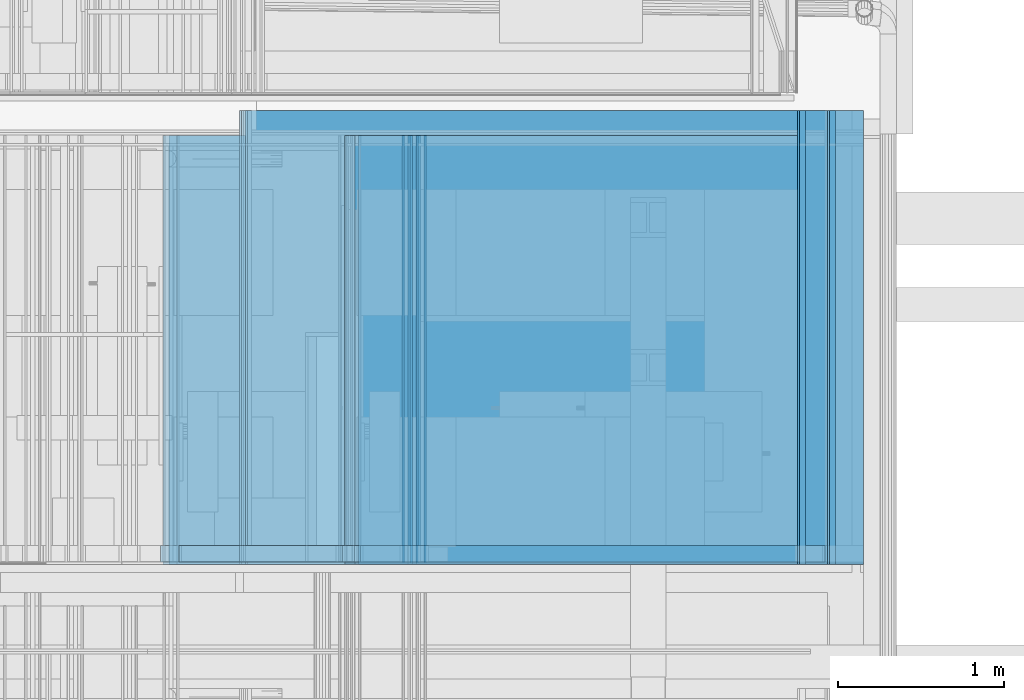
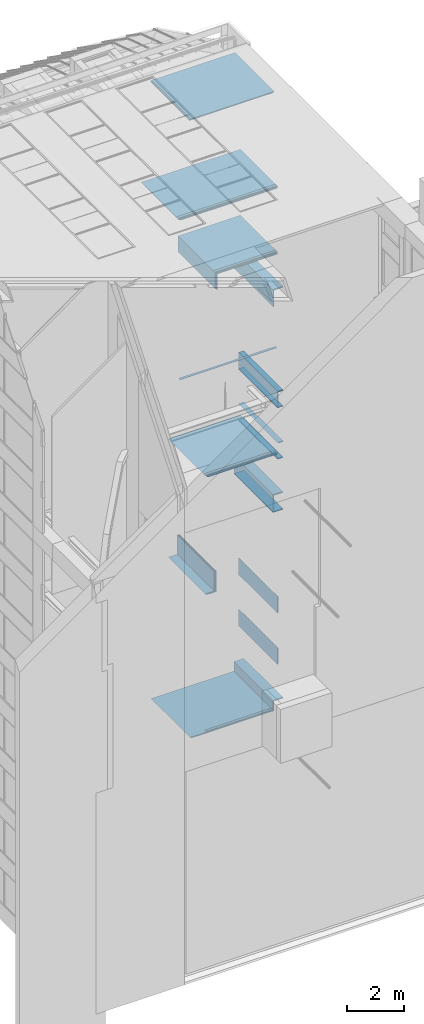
# One storey, part 126 of 583: 57 building element parts, 23 elements without a shape of their own.
"""IFC2X3 building model written with IfcOpenShell, lengths in metres."""

import ifcopenshell
import ifcopenshell.guid

model = None  # the IFC model being written
_history = None  # IfcOwnerHistory: only IFC2X3 demands one
_inside = {}  # id of a spatial element -> (the spatial element, [elements in it])
_under = {}  # id of a project, library or spatial element -> (it, [spatial elements below it])
_declared = {}  # id of a project -> (the project, [libraries it declares])
_typed = {}  # id of a type object -> (the type object, [elements of that type])
_made_of = {}  # id of a material, layer set ... -> (it, [elements and type objects made of it])


def new_model(schema):
    """Start an empty IFC model of exactly this schema.

    Asked for "IFC4X3", IfcOpenShell would pick the latest addendum, in which some entities
    have other attributes; the version numbers below select the first issue.
    IFC2X3 requires an IfcOwnerHistory on every rooted entity: one is made here for all.
    """
    global model, _history
    if schema == "IFC4X3":
        model = ifcopenshell.file(schema_version=(4, 3, 0, 0))
    else:
        model = ifcopenshell.file(schema=schema)
    _inside.clear()
    _under.clear()
    _declared.clear()
    _typed.clear()
    _made_of.clear()
    _history = None
    if model.schema == "IFC2X3":
        org = make("IfcOrganization", Name="unknown")
        user = make(
            "IfcPersonAndOrganization",
            ThePerson=make("IfcPerson", FamilyName="unknown"),
            TheOrganization=org,
        )
        app = make(
            "IfcApplication",
            ApplicationDeveloper=org,
            Version="unknown",
            ApplicationFullName="unknown",
            ApplicationIdentifier="unknown",
        )
        _history = make(
            "IfcOwnerHistory",
            OwningUser=user,
            OwningApplication=app,
            ChangeAction="ADDED",
            CreationDate=0,
        )
    return model


def make(cls, **values):
    """One entity of the class cls with the attributes given. An attribute that is None is left unset."""
    return model.create_entity(
        cls, **{name: value for name, value in values.items() if value is not None}
    )


def entity(cls, *values):
    """Any entity or typed value of the class cls, its attributes in the order of the schema. None: left unset."""
    e = model.create_entity(cls)
    for i, value in enumerate(values):
        if value is not None:
            e[i] = value
    return e


def rooted(cls, **values):
    """An entity with a GlobalId (a new one), such as an element, a storey or a relation."""
    return make(cls, GlobalId=ifcopenshell.guid.new(), OwnerHistory=_history, **values)


def si_unit(unit_type, name, prefix=None):
    """IfcSIUnit, for example si_unit("LENGTHUNIT", "METRE", prefix="MILLI")."""
    return make("IfcSIUnit", UnitType=unit_type, Prefix=prefix, Name=name)


def converted_unit(unit_type, name, factor, base, dimensions=None, offset=None):
    """IfcConversionBasedUnit, such as the inch: factor (a typed value) times the base unit."""
    return make(
        "IfcConversionBasedUnit"
        if offset is None
        else "IfcConversionBasedUnitWithOffset",
        ConversionOffset=offset,
        Dimensions=None
        if dimensions is None
        else entity("IfcDimensionalExponents", *dimensions),
        UnitType=unit_type,
        Name=name,
        ConversionFactor=make(
            "IfcMeasureWithUnit", ValueComponent=factor, UnitComponent=base
        ),
    )


def derived_unit(unit_type, elements):
    """IfcDerivedUnit: a product of units, each with its exponent."""
    return make(
        "IfcDerivedUnit",
        Elements=[
            make("IfcDerivedUnitElement", Unit=unit, Exponent=power)
            for unit, power in elements
        ],
        UnitType=unit_type,
    )


def money_unit(currency):
    """IfcMonetaryUnit."""
    return make("IfcMonetaryUnit", Currency=currency)


def assignment(units):
    """IfcUnitAssignment: the units of a project."""
    return None if units is None else make("IfcUnitAssignment", Units=units)


def point(xyz):
    """IfcCartesianPoint."""
    return None if xyz is None else make("IfcCartesianPoint", Coordinates=xyz)


def direction(xyz):
    """IfcDirection."""
    return None if xyz is None else make("IfcDirection", DirectionRatios=xyz)


def frame(location, z_axis=None, x_axis=None):
    """IfcAxis2Placement3D, a coordinate frame: its origin and axes. An axis left out is left unset."""
    return make(
        "IfcAxis2Placement3D",
        Location=point(location),
        Axis=direction(z_axis),
        RefDirection=direction(x_axis),
    )


def frame_2d(location, x_axis=None):
    """IfcAxis2Placement2D, a coordinate frame in the plane: its origin and x axis."""
    return make(
        "IfcAxis2Placement2D", Location=point(location), RefDirection=direction(x_axis)
    )


def origin_with_axes():
    """The frame at (0, 0, 0) with the z axis (0, 0, 1) and the x axis (1, 0, 0) written out."""
    return frame((0.0, 0.0, 0.0), z_axis=(0.0, 0.0, 1.0), x_axis=(1.0, 0.0, 0.0))


def place(relative_to, where):
    """IfcLocalPlacement: puts the frame where relative to a parent placement (None: the world)."""
    return make(
        "IfcLocalPlacement", PlacementRelTo=relative_to, RelativePlacement=where
    )


def context(
    kind, dimensions, precision=None, world=None, true_north=None, identifier=None
):
    """IfcGeometricRepresentationContext, for example the 3D "Model" context."""
    return make(
        "IfcGeometricRepresentationContext",
        ContextIdentifier=identifier,
        ContextType=kind,
        CoordinateSpaceDimension=dimensions,
        Precision=precision,
        WorldCoordinateSystem=world,
        TrueNorth=true_north,
    )


def subcontext(parent, identifier, kind, view, scale=None):
    """IfcGeometricRepresentationSubContext, for example "Body" below "Model"."""
    return make(
        "IfcGeometricRepresentationSubContext",
        ContextIdentifier=identifier,
        ContextType=kind,
        ParentContext=parent,
        TargetScale=scale,
        TargetView=view,
    )


def project(units=None, contexts=None):
    """IfcProject with its units and contexts."""
    return rooted(
        "IfcProject",
        Name="project",
        RepresentationContexts=contexts,
        UnitsInContext=assignment(units),
    )


def spatial(cls, under=None, at=None, **own):
    """A site, building, storey or space (cls), placed at a placement, below another one or the project."""
    s = rooted(cls, ObjectPlacement=at, **own)
    if under is not None:
        _under.setdefault(under.id(), (under, []))[1].append(s)
    return s


def polyline(points):
    """IfcPolyline through the points."""
    return make("IfcPolyline", Points=[point(p) for p in points])


def profile(cls, at=None, kind="AREA", **sizes):
    """A parametric profile (cls). Its sizes go by their IFC names, for example OverallWidth=200.0."""
    return make(cls, ProfileType=kind, Position=at, **sizes)


def rectangle(**sizes):
    """IfcRectangleProfileDef."""
    return profile("IfcRectangleProfileDef", **sizes)


def outline(outer, holes=None, kind="AREA"):
    """IfcArbitraryClosedProfileDef: a profile drawn as a closed curve; with holes, ...WithVoids."""
    if holes is None:
        return make("IfcArbitraryClosedProfileDef", ProfileType=kind, OuterCurve=outer)
    return make(
        "IfcArbitraryProfileDefWithVoids",
        ProfileType=kind,
        OuterCurve=outer,
        InnerCurves=holes,
    )


def extrude(swept, where, along, depth):
    """IfcExtrudedAreaSolid: the profile swept, set in the frame where, extruded along a direction by depth."""
    return make(
        "IfcExtrudedAreaSolid",
        SweptArea=swept,
        Position=where,
        ExtrudedDirection=direction(along),
        Depth=depth,
    )


def shape(context_of_items, identifier, shape_type, items):
    """IfcShapeRepresentation: the items that make up one representation, for example the "Body"."""
    return make(
        "IfcShapeRepresentation",
        ContextOfItems=context_of_items,
        RepresentationIdentifier=identifier,
        RepresentationType=shape_type,
        Items=items,
    )


def material(Name=None, Category=None):
    """IfcMaterial."""
    return make("IfcMaterial", Name=Name, Category=Category)


def made_of(thing, what):
    """Note that an element or type object is made of a material, layer set ...; save() writes the relation."""
    if what is not None:
        _made_of.setdefault(what.id(), (what, []))[1].append(thing)
    return thing


def type_object(cls, material=None, **own):
    """A type object (cls), such as IfcWallType, which elements share."""
    return made_of(rooted(cls, **own), material)


def element(
    cls,
    number,
    at=None,
    inside=None,
    cuts=None,
    type_object=None,
    material=None,
    context=None,
    identifier="Body",
    shape_type=None,
    held_by="IfcProductDefinitionShape",
    body=None,
    shapes=None,
    **own,
):
    """One element of the class cls, such as IfcWall. Its Tag is "e" and its number.

    at: its placement. inside: the storey or other place that contains it. cuts: it is an
    opening in that element (IfcRelVoidsElement). A single representation is given by context,
    identifier, shape_type and body (its items); several are given by shapes. held_by: the class
    of the entity that holds the representations. save() writes the other relations.
    """
    e = rooted(cls, Tag="e%d" % number, ObjectPlacement=at, **own)
    if body is not None:
        shapes = [shape(context, identifier, shape_type, body)]
    if shapes is not None:
        e.Representation = make(held_by, Representations=shapes)
    if inside is not None:
        _inside.setdefault(inside.id(), (inside, []))[1].append(e)
    if cuts is not None:
        rooted(
            "IfcRelVoidsElement", RelatingBuildingElement=cuts, RelatedOpeningElement=e
        )
    if type_object is not None:
        _typed.setdefault(type_object.id(), (type_object, []))[1].append(e)
    return made_of(e, material)


def aggregate(whole, parts):
    """IfcRelAggregates: a whole, such as a stair, and the parts it consists of."""
    return rooted("IfcRelAggregates", RelatingObject=whole, RelatedObjects=parts)


def save(model, path):
    """Write the relations noted so far, then the file.

    IfcRelAggregates (storeys below a building ...), IfcRelContainedInSpatialStructure (elements
    in a storey), IfcRelDefinesByType, IfcRelAssociatesMaterial and IfcRelDeclares: one each for
    every whole, place, type object, material and project.
    """
    for whole, parts in _under.values():
        aggregate(whole, parts)
    for where, things in _inside.values():
        rooted(
            "IfcRelContainedInSpatialStructure",
            RelatedElements=things,
            RelatingStructure=where,
        )
    for kind, things in _typed.values():
        rooted("IfcRelDefinesByType", RelatedObjects=things, RelatingType=kind)
    for what, things in _made_of.values():
        rooted("IfcRelAssociatesMaterial", RelatedObjects=things, RelatingMaterial=what)
    for by, libraries in _declared.values():
        rooted("IfcRelDeclares", RelatingContext=by, RelatedDefinitions=libraries)
    model.write(path)


model = new_model("IFC2X3")

# Units and contexts
model_context = context("Model", 3, precision=1e-05, world=origin_with_axes(), true_north=direction((0.0, 1.0)))
body_context = subcontext(model_context, "Body", "Model", "MODEL_VIEW", scale=1.0)
ifc_project = project(units=[si_unit("LENGTHUNIT", "METRE"), si_unit("AREAUNIT", "SQUARE_METRE"), si_unit("VOLUMEUNIT", "CUBIC_METRE"), si_unit("ABSORBEDDOSEUNIT", "GRAY"), si_unit("AMOUNTOFSUBSTANCEUNIT", "MOLE"), si_unit("DOSEEQUIVALENTUNIT", "SIEVERT"), si_unit("ELECTRICCAPACITANCEUNIT", "FARAD"), si_unit("ELECTRICCHARGEUNIT", "COULOMB"), si_unit("ELECTRICCONDUCTANCEUNIT", "SIEMENS"), si_unit("ELECTRICCURRENTUNIT", "AMPERE"), si_unit("ELECTRICRESISTANCEUNIT", "OHM"), si_unit("ELECTRICVOLTAGEUNIT", "VOLT"), si_unit("ENERGYUNIT", "JOULE"), si_unit("FORCEUNIT", "NEWTON"), si_unit("FREQUENCYUNIT", "HERTZ"), si_unit("ILLUMINANCEUNIT", "LUX"), si_unit("INDUCTANCEUNIT", "HENRY"), si_unit("LUMINOUSFLUXUNIT", "LUMEN"), si_unit("LUMINOUSINTENSITYUNIT", "CANDELA"), si_unit("MAGNETICFLUXDENSITYUNIT", "TESLA"), si_unit("MAGNETICFLUXUNIT", "WEBER"), si_unit("MASSUNIT", "GRAM"), converted_unit("PLANEANGLEUNIT", "degree", entity("IfcReal", 0.0174532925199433), si_unit("PLANEANGLEUNIT", "RADIAN"), dimensions=[0, 0, 0, 0, 0, 0, 0]), si_unit("POWERUNIT", "WATT"), si_unit("PRESSUREUNIT", "PASCAL"), si_unit("RADIOACTIVITYUNIT", "BECQUEREL"), si_unit("SOLIDANGLEUNIT", "STERADIAN"), si_unit("THERMODYNAMICTEMPERATUREUNIT", "KELVIN"), si_unit("TIMEUNIT", "SECOND"), derived_unit("ACCELERATIONUNIT", [(si_unit("LENGTHUNIT", "METRE"), 1), (si_unit("TIMEUNIT", "SECOND"), -2)]), derived_unit("ANGULARVELOCITYUNIT", [(converted_unit("PLANEANGLEUNIT", "degree", entity("IfcReal", 0.0174532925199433), si_unit("PLANEANGLEUNIT", "RADIAN"), dimensions=[0, 0, 0, 0, 0, 0, 0]), 1), (si_unit("TIMEUNIT", "SECOND"), -1)]), derived_unit("CURVATUREUNIT", [(converted_unit("PLANEANGLEUNIT", "degree", entity("IfcReal", 0.0174532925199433), si_unit("PLANEANGLEUNIT", "RADIAN"), dimensions=[0, 0, 0, 0, 0, 0, 0]), 1), (si_unit("LENGTHUNIT", "METRE"), -1)]), derived_unit("DYNAMICVISCOSITYUNIT", [(si_unit("PRESSUREUNIT", "PASCAL"), 1), (si_unit("TIMEUNIT", "SECOND"), 1)]), derived_unit("HEATFLUXDENSITYUNIT", [(si_unit("POWERUNIT", "WATT"), 1), (si_unit("LENGTHUNIT", "METRE"), -2)]), derived_unit("HEATINGVALUEUNIT", [(si_unit("ENERGYUNIT", "JOULE"), 1), (si_unit("MASSUNIT", "GRAM"), -1)]), derived_unit("INTEGERCOUNTRATEUNIT", [(si_unit("TIMEUNIT", "SECOND"), -1)]), derived_unit("IONCONCENTRATIONUNIT", [(si_unit("MASSUNIT", "GRAM"), 1), (si_unit("VOLUMEUNIT", "CUBIC_METRE"), -1)]), derived_unit("ISOTHERMALMOISTURECAPACITYUNIT", [(si_unit("VOLUMEUNIT", "CUBIC_METRE"), 1), (si_unit("MASSUNIT", "GRAM"), -1)]), derived_unit("KINEMATICVISCOSITYUNIT", [(si_unit("AREAUNIT", "SQUARE_METRE"), 1), (si_unit("TIMEUNIT", "SECOND"), -1)]), derived_unit("LINEARFORCEUNIT", [(si_unit("FORCEUNIT", "NEWTON"), 1), (si_unit("LENGTHUNIT", "METRE"), -1)]), derived_unit("LINEARMOMENTUNIT", [(si_unit("FORCEUNIT", "NEWTON"), 1), (si_unit("LENGTHUNIT", "METRE"), -1)]), derived_unit("LINEARSTIFFNESSUNIT", [(si_unit("FORCEUNIT", "NEWTON"), 1), (si_unit("LENGTHUNIT", "METRE"), -1)]), derived_unit("LINEARVELOCITYUNIT", [(si_unit("LENGTHUNIT", "METRE"), 1), (si_unit("TIMEUNIT", "SECOND"), -1)]), derived_unit("LUMINOUSINTENSITYDISTRIBUTIONUNIT", [(si_unit("LUMINOUSINTENSITYUNIT", "CANDELA"), 1), (si_unit("LUMINOUSFLUXUNIT", "LUMEN"), -1)]), derived_unit("MASSDENSITYUNIT", [(si_unit("MASSUNIT", "GRAM"), 1), (si_unit("VOLUMEUNIT", "CUBIC_METRE"), -1)]), derived_unit("MASSFLOWRATEUNIT", [(si_unit("MASSUNIT", "GRAM"), 1), (si_unit("TIMEUNIT", "SECOND"), -1)]), derived_unit("MASSPERLENGTHUNIT", [(si_unit("MASSUNIT", "GRAM"), 1), (si_unit("LENGTHUNIT", "METRE"), -1)]), derived_unit("MODULUSOFELASTICITYUNIT", [(si_unit("FORCEUNIT", "NEWTON"), 1), (si_unit("AREAUNIT", "SQUARE_METRE"), -1)]), derived_unit("MODULUSOFLINEARSUBGRADEREACTIONUNIT", [(si_unit("FORCEUNIT", "NEWTON"), 1), (si_unit("LENGTHUNIT", "METRE"), -2)]), derived_unit("MODULUSOFROTATIONALSUBGRADEREACTIONUNIT", [(si_unit("FORCEUNIT", "NEWTON"), 1), (si_unit("LENGTHUNIT", "METRE"), 1)]), derived_unit("MODULUSOFSUBGRADEREACTIONUNIT", [(si_unit("FORCEUNIT", "NEWTON"), 1), (si_unit("VOLUMEUNIT", "CUBIC_METRE"), -1)]), derived_unit("MOISTUREDIFFUSIVITYUNIT", [(si_unit("VOLUMEUNIT", "CUBIC_METRE"), 1), (si_unit("TIMEUNIT", "SECOND"), -1)]), derived_unit("MOLECULARWEIGHTUNIT", [(si_unit("MASSUNIT", "GRAM"), 1), (si_unit("AMOUNTOFSUBSTANCEUNIT", "MOLE"), -1)]), derived_unit("PLANARFORCEUNIT", [(si_unit("FORCEUNIT", "NEWTON"), 1), (si_unit("LENGTHUNIT", "METRE"), -2)]), derived_unit("ROTATIONALFREQUENCYUNIT", [(si_unit("TIMEUNIT", "SECOND"), -1)]), derived_unit("ROTATIONALMASSUNIT", [(si_unit("MASSUNIT", "GRAM"), 1), (si_unit("LENGTHUNIT", "METRE"), 2)]), derived_unit("ROTATIONALSTIFFNESSUNIT", [(si_unit("FORCEUNIT", "NEWTON"), 1), (si_unit("LENGTHUNIT", "METRE"), 1), (converted_unit("PLANEANGLEUNIT", "degree", entity("IfcReal", 0.0174532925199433), si_unit("PLANEANGLEUNIT", "RADIAN"), dimensions=[0, 0, 0, 0, 0, 0, 0]), -1)]), derived_unit("SECTIONAREAINTEGRALUNIT", [(si_unit("LENGTHUNIT", "METRE"), 5)]), derived_unit("SECTIONMODULUSUNIT", [(si_unit("LENGTHUNIT", "METRE"), 3)]), derived_unit("SHEARMODULUSUNIT", [(si_unit("FORCEUNIT", "NEWTON"), 1), (si_unit("AREAUNIT", "SQUARE_METRE"), -1)]), derived_unit("SOUNDPOWERUNIT", [(si_unit("ENERGYUNIT", "JOULE"), 1), (si_unit("TIMEUNIT", "SECOND"), -1)]), derived_unit("SPECIFICHEATCAPACITYUNIT", [(si_unit("FORCEUNIT", "NEWTON"), 1), (si_unit("MASSUNIT", "GRAM"), -1), (si_unit("THERMODYNAMICTEMPERATUREUNIT", "KELVIN"), -1)]), derived_unit("TEMPERATUREGRADIENTUNIT", [(si_unit("THERMODYNAMICTEMPERATUREUNIT", "KELVIN"), 1), (si_unit("LENGTHUNIT", "METRE"), -1)]), derived_unit("THERMALADMITTANCEUNIT", [(si_unit("POWERUNIT", "WATT"), 1), (si_unit("AREAUNIT", "SQUARE_METRE"), -1), (si_unit("THERMODYNAMICTEMPERATUREUNIT", "KELVIN"), -1)]), derived_unit("THERMALCONDUCTANCEUNIT", [(si_unit("POWERUNIT", "WATT"), 1), (si_unit("LENGTHUNIT", "METRE"), -1), (si_unit("THERMODYNAMICTEMPERATUREUNIT", "KELVIN"), -1)]), derived_unit("THERMALEXPANSIONCOEFFICIENTUNIT", [(si_unit("THERMODYNAMICTEMPERATUREUNIT", "KELVIN"), -1)]), derived_unit("THERMALRESISTANCEUNIT", [(si_unit("AREAUNIT", "SQUARE_METRE"), 1), (si_unit("POWERUNIT", "WATT"), -1)]), derived_unit("THERMALTRANSMITTANCEUNIT", [(si_unit("POWERUNIT", "WATT"), 1), (si_unit("AREAUNIT", "SQUARE_METRE"), -1), (si_unit("THERMODYNAMICTEMPERATUREUNIT", "KELVIN"), -1)]), derived_unit("TORQUEUNIT", [(si_unit("FORCEUNIT", "NEWTON"), 1), (si_unit("LENGTHUNIT", "METRE"), 1)]), derived_unit("VAPORPERMEABILITYUNIT", [(si_unit("MASSUNIT", "GRAM"), 1), (si_unit("TIMEUNIT", "SECOND"), -1)]), derived_unit("VOLUMETRICFLOWRATEUNIT", [(si_unit("VOLUMEUNIT", "CUBIC_METRE"), 1), (si_unit("TIMEUNIT", "SECOND"), -1)]), derived_unit("WARPINGCONSTANTUNIT", [(si_unit("LENGTHUNIT", "METRE"), 6)]), derived_unit("WARPINGMOMENTUNIT", [(si_unit("FORCEUNIT", "NEWTON"), 1), (si_unit("LENGTHUNIT", "METRE"), 2)]), money_unit("GBP")], contexts=[model_context])

# Site, building, storey
site_placement = place(None, origin_with_axes())
site = spatial("IfcSite", under=ifc_project, at=site_placement, Name="Site", CompositionType="ELEMENT")
building_placement = place(site_placement, origin_with_axes())
building = spatial("IfcBuilding", under=site, at=building_placement, Name="Building01", CompositionType="ELEMENT")
storey_placement = place(building_placement, frame((0.0, 0.0, 20.78), z_axis=(0.0, 0.0, 1.0), x_axis=(1.0, 0.0, 0.0)))
storey = spatial("IfcBuildingStorey", under=building, at=storey_placement, Name="RL", CompositionType="ELEMENT", Elevation=20.78)

# Wall, building element parts
wall_type_1 = type_object("IfcWallType", Name="SHE_A-Walls_Type06d_ExternalWallInsulation_48mm", PredefinedType="NOTDEFINED")
wall_1_placement = place(storey_placement, frame((14.8, 12.13, -20.103), z_axis=(0.0, 1.0, 0.0), x_axis=(-1.0, 0.0, 0.0)))
wall_1 = element("IfcWall", 1, at=wall_1_placement, inside=storey, type_object=wall_type_1, Name="6D", ObjectType="SHE_A-Walls_Type06d_ExternalWallInsulation_48mm")
ifc_material_1 = material(Name="A_BSUK_Insulation")
placement_1 = place(wall_1_placement, origin_with_axes())
building_element_part_1 = element("IfcBuildingElementPart", 2, at=placement_1, material=ifc_material_1, Name="1", context=body_context, shape_type="SweptSolid", body=[
    extrude(outline(polyline([(0.386, 0.036), (0.0, 0.036), (0.0, 0.0), (0.35, 0.0), (0.386, 0.036)])), origin_with_axes(), (0.0, 0.0, 1.0), 2.74),
])
ifc_material_2 = material(Name="A_BSUK_WallInternal_Finishes_Plasterboard")
building_element_part_2 = element("IfcBuildingElementPart", 3, at=placement_1, material=ifc_material_2, Name="3", context=body_context, shape_type="SweptSolid", body=[
    extrude(outline(polyline([(0.398, 0.048), (0.0, 0.048), (0.0, 0.035), (0.385, 0.035), (0.398, 0.048)])), origin_with_axes(), (0.0, 0.0, 1.0), 2.74),
])
aggregate(wall_1, [building_element_part_1, building_element_part_2])

wall_2_placement = place(storey_placement, frame((14.45, 12.13, -20.103), z_axis=(0.0, 1.0, 0.0), x_axis=(0.0, 0.0, -1.0)))
wall_2 = element("IfcWall", 4, at=wall_2_placement, inside=storey, type_object=wall_type_1, Name="6D", ObjectType="SHE_A-Walls_Type06d_ExternalWallInsulation_48mm")
placement_2 = place(wall_2_placement, origin_with_axes())
building_element_part_3 = element("IfcBuildingElementPart", 5, at=placement_2, material=ifc_material_1, Name="1", context=body_context, shape_type="SweptSolid", body=[
    extrude(outline(polyline([(0.371, 0.036), (-0.036, 0.036), (0.0, 0.0), (0.407, 0.0), (0.371, 0.036)])), origin_with_axes(), (0.0, 0.0, 1.0), 2.74),
])
building_element_part_4 = element("IfcBuildingElementPart", 6, at=placement_2, material=ifc_material_2, Name="3", context=body_context, shape_type="SweptSolid", body=[
    extrude(outline(polyline([(0.359, 0.048), (-0.048, 0.048), (-0.035, 0.035), (0.372, 0.035), (0.359, 0.048)])), origin_with_axes(), (0.0, 0.0, 1.0), 2.74),
])
aggregate(wall_2, [building_element_part_3, building_element_part_4])

wall_3_placement = place(storey_placement, frame((14.63, 12.13, -17.913), z_axis=(0.0, 1.0, 0.0), x_axis=(0.0, 0.0, -1.0)))
wall_3 = element("IfcWall", 7, at=wall_3_placement, inside=storey, type_object=wall_type_1, Name="6D", ObjectType="SHE_A-Walls_Type06d_ExternalWallInsulation_48mm")
placement_3 = place(wall_3_placement, origin_with_axes())
building_element_part_5 = element("IfcBuildingElementPart", 8, at=placement_3, material=ifc_material_1, Name="1", context=body_context, shape_type="SweptSolid", body=[
    extrude(outline(polyline([(0.66, 0.036), (-0.036, 0.036), (0.0, 0.0), (0.624, 0.0), (0.66, 0.036)])), origin_with_axes(), (0.0, 0.0, 1.0), 2.74),
])
building_element_part_6 = element("IfcBuildingElementPart", 9, at=placement_3, material=ifc_material_2, Name="3", context=body_context, shape_type="SweptSolid", body=[
    extrude(outline(polyline([(0.672, 0.048), (-0.048, 0.048), (-0.035, 0.035), (0.659, 0.035), (0.672, 0.048)])), origin_with_axes(), (0.0, 0.0, 1.0), 2.74),
])
aggregate(wall_3, [building_element_part_5, building_element_part_6])

wall_4_placement = place(storey_placement, frame((14.63, 12.13, -15.723), z_axis=(0.0, 1.0, 0.0), x_axis=(0.0, 0.0, -1.0)))
wall_4 = element("IfcWall", 10, at=wall_4_placement, inside=storey, type_object=wall_type_1, Name="6D", ObjectType="SHE_A-Walls_Type06d_ExternalWallInsulation_48mm")
placement_4 = place(wall_4_placement, origin_with_axes())
building_element_part_7 = element("IfcBuildingElementPart", 11, at=placement_4, material=ifc_material_1, Name="1", context=body_context, shape_type="SweptSolid", body=[
    extrude(outline(polyline([(0.66, 0.036), (-0.036, 0.036), (0.0, 0.0), (0.624, 0.0), (0.66, 0.036)])), origin_with_axes(), (0.0, 0.0, 1.0), 2.74),
])
building_element_part_8 = element("IfcBuildingElementPart", 12, at=placement_4, material=ifc_material_2, Name="3", context=body_context, shape_type="SweptSolid", body=[
    extrude(outline(polyline([(0.672, 0.048), (-0.048, 0.048), (-0.035, 0.035), (0.659, 0.035), (0.672, 0.048)])), origin_with_axes(), (0.0, 0.0, 1.0), 2.74),
])
aggregate(wall_4, [building_element_part_7, building_element_part_8])

wall_5_placement = place(storey_placement, frame((14.8, 12.13, -11.32), z_axis=(0.0, 1.0, 0.0), x_axis=(-1.0, 0.0, 0.0)))
wall_5 = element("IfcWall", 13, at=wall_5_placement, inside=storey, type_object=wall_type_1, Name="6D", ObjectType="SHE_A-Walls_Type06d_ExternalWallInsulation_48mm")
placement_5 = place(wall_5_placement, origin_with_axes())
building_element_part_9 = element("IfcBuildingElementPart", 14, at=placement_5, material=ifc_material_1, Name="1", context=body_context, shape_type="SweptSolid", body=[
    extrude(outline(polyline([(0.386, 0.036), (0.0, 0.036), (0.0, 0.0), (0.35, 0.0), (0.386, 0.036)])), origin_with_axes(), (0.0, 0.0, 1.0), 2.74),
])
building_element_part_10 = element("IfcBuildingElementPart", 15, at=placement_5, material=ifc_material_2, Name="3", context=body_context, shape_type="SweptSolid", body=[
    extrude(outline(polyline([(0.398, 0.048), (0.0, 0.048), (0.0, 0.035), (0.385, 0.035), (0.398, 0.048)])), origin_with_axes(), (0.0, 0.0, 1.0), 2.74),
])
aggregate(wall_5, [building_element_part_9, building_element_part_10])

wall_6_placement = place(storey_placement, frame((14.45, 12.13, -11.32), z_axis=(0.0, 1.0, 0.0), x_axis=(0.0, 0.0, -1.0)))
wall_6 = element("IfcWall", 16, at=wall_6_placement, inside=storey, type_object=wall_type_1, Name="6D", ObjectType="SHE_A-Walls_Type06d_ExternalWallInsulation_48mm")
placement_6 = place(wall_6_placement, origin_with_axes())
building_element_part_11 = element("IfcBuildingElementPart", 17, at=placement_6, material=ifc_material_1, Name="1", context=body_context, shape_type="SweptSolid", body=[
    extrude(outline(polyline([(0.706, 0.036), (-0.036, 0.036), (0.0, 0.0), (0.67, 0.0), (0.706, 0.036)])), origin_with_axes(), (0.0, 0.0, 1.0), 2.74),
])
building_element_part_12 = element("IfcBuildingElementPart", 18, at=placement_6, material=ifc_material_2, Name="3", context=body_context, shape_type="SweptSolid", body=[
    extrude(outline(polyline([(0.718, 0.048), (-0.048, 0.048), (-0.035, 0.035), (0.705, 0.035), (0.718, 0.048)])), origin_with_axes(), (0.0, 0.0, 1.0), 2.74),
])
aggregate(wall_6, [building_element_part_11, building_element_part_12])

wall_7_placement = place(storey_placement, frame((14.45, 12.13, -11.99), z_axis=(0.0, 1.0, 0.0), x_axis=(1.0, 0.0, 0.0)))
wall_7 = element("IfcWall", 19, at=wall_7_placement, inside=storey, type_object=wall_type_1, Name="6D", ObjectType="SHE_A-Walls_Type06d_ExternalWallInsulation_48mm")
placement_7 = place(wall_7_placement, origin_with_axes())
building_element_part_13 = element("IfcBuildingElementPart", 20, at=placement_7, material=ifc_material_1, Name="1", context=body_context, shape_type="SweptSolid", body=[
    extrude(outline(polyline([(-0.036, 0.036), (0.0, 0.0), (0.35, 0.0), (0.35, 0.036), (-0.036, 0.036)])), origin_with_axes(), (0.0, 0.0, 1.0), 2.74),
])
building_element_part_14 = element("IfcBuildingElementPart", 21, at=placement_7, material=ifc_material_2, Name="3", context=body_context, shape_type="SweptSolid", body=[
    extrude(outline(polyline([(-0.048, 0.048), (-0.035, 0.035), (0.35, 0.035), (0.35, 0.048), (-0.048, 0.048)])), origin_with_axes(), (0.0, 0.0, 1.0), 2.74),
])
aggregate(wall_7, [building_element_part_13, building_element_part_14])

wall_8_placement = place(storey_placement, frame((14.8, 12.13, -9.153), z_axis=(0.0, 1.0, 0.0), x_axis=(-1.0, 0.0, 0.0)))
wall_8 = element("IfcWall", 22, at=wall_8_placement, inside=storey, type_object=wall_type_1, Name="6D", ObjectType="SHE_A-Walls_Type06d_ExternalWallInsulation_48mm")
placement_8 = place(wall_8_placement, origin_with_axes())
building_element_part_15 = element("IfcBuildingElementPart", 23, at=placement_8, material=ifc_material_1, Name="1", context=body_context, shape_type="SweptSolid", body=[
    extrude(outline(polyline([(0.206, 0.036), (0.0, 0.036), (0.0, 0.0), (0.17, 0.0), (0.206, 0.036)])), origin_with_axes(), (0.0, 0.0, 1.0), 2.74),
])
building_element_part_16 = element("IfcBuildingElementPart", 24, at=placement_8, material=ifc_material_2, Name="3", context=body_context, shape_type="SweptSolid", body=[
    extrude(outline(polyline([(0.218, 0.048), (0.0, 0.048), (0.0, 0.035), (0.205, 0.035), (0.218, 0.048)])), origin_with_axes(), (0.0, 0.0, 1.0), 2.74),
])
aggregate(wall_8, [building_element_part_15, building_element_part_16])

wall_9_placement = place(storey_placement, frame((14.63, 12.13, -9.777), z_axis=(0.0, 1.0, 0.0), x_axis=(1.0, 0.0, 0.0)))
wall_9 = element("IfcWall", 25, at=wall_9_placement, inside=storey, type_object=wall_type_1, Name="6D", ObjectType="SHE_A-Walls_Type06d_ExternalWallInsulation_48mm")
placement_9 = place(wall_9_placement, origin_with_axes())
building_element_part_17 = element("IfcBuildingElementPart", 26, at=placement_9, material=ifc_material_1, Name="1", context=body_context, shape_type="SweptSolid", body=[
    extrude(outline(polyline([(-0.036, 0.036), (0.0, 0.0), (0.17, 0.0), (0.17, 0.036), (-0.036, 0.036)])), origin_with_axes(), (0.0, 0.0, 1.0), 2.74),
])
building_element_part_18 = element("IfcBuildingElementPart", 27, at=placement_9, material=ifc_material_2, Name="3", context=body_context, shape_type="SweptSolid", body=[
    extrude(outline(polyline([(-0.048, 0.048), (-0.035, 0.035), (0.17, 0.035), (0.17, 0.048), (-0.048, 0.048)])), origin_with_axes(), (0.0, 0.0, 1.0), 2.74),
])
aggregate(wall_9, [building_element_part_17, building_element_part_18])

wall_10_placement = place(storey_placement, frame((14.8, 12.13, -6.963), z_axis=(0.0, 1.0, 0.0), x_axis=(-1.0, 0.0, 0.0)))
wall_10 = element("IfcWall", 28, at=wall_10_placement, inside=storey, type_object=wall_type_1, Name="6D", ObjectType="SHE_A-Walls_Type06d_ExternalWallInsulation_48mm")
placement_10 = place(wall_10_placement, origin_with_axes())
building_element_part_19 = element("IfcBuildingElementPart", 29, at=placement_10, material=ifc_material_1, Name="1", context=body_context, shape_type="SweptSolid", body=[
    extrude(outline(polyline([(0.206, 0.036), (0.0, 0.036), (0.0, 0.0), (0.17, 0.0), (0.206, 0.036)])), origin_with_axes(), (0.0, 0.0, 1.0), 2.74),
])
building_element_part_20 = element("IfcBuildingElementPart", 30, at=placement_10, material=ifc_material_2, Name="3", context=body_context, shape_type="SweptSolid", body=[
    extrude(outline(polyline([(0.218, 0.048), (0.0, 0.048), (0.0, 0.035), (0.205, 0.035), (0.218, 0.048)])), origin_with_axes(), (0.0, 0.0, 1.0), 2.74),
])
aggregate(wall_10, [building_element_part_19, building_element_part_20])

wall_11_placement = place(storey_placement, frame((14.63, 12.13, -6.963), z_axis=(0.0, 1.0, 0.0), x_axis=(0.0, 0.0, -1.0)))
wall_11 = element("IfcWall", 31, at=wall_11_placement, inside=storey, type_object=wall_type_1, Name="6D", ObjectType="SHE_A-Walls_Type06d_ExternalWallInsulation_48mm")
placement_11 = place(wall_11_placement, origin_with_axes())
building_element_part_21 = element("IfcBuildingElementPart", 32, at=placement_11, material=ifc_material_1, Name="1", context=body_context, shape_type="SweptSolid", body=[
    extrude(outline(polyline([(0.66, 0.036), (-0.036, 0.036), (0.0, 0.0), (0.624, 0.0), (0.66, 0.036)])), origin_with_axes(), (0.0, 0.0, 1.0), 2.74),
])
building_element_part_22 = element("IfcBuildingElementPart", 33, at=placement_11, material=ifc_material_2, Name="3", context=body_context, shape_type="SweptSolid", body=[
    extrude(outline(polyline([(0.672, 0.048), (-0.048, 0.048), (-0.035, 0.035), (0.659, 0.035), (0.672, 0.048)])), origin_with_axes(), (0.0, 0.0, 1.0), 2.74),
])
aggregate(wall_11, [building_element_part_21, building_element_part_22])

wall_12_placement = place(storey_placement, frame((14.63, 12.13, -7.587), z_axis=(0.0, 1.0, 0.0), x_axis=(1.0, 0.0, 0.0)))
wall_12 = element("IfcWall", 34, at=wall_12_placement, inside=storey, type_object=wall_type_1, Name="6D", ObjectType="SHE_A-Walls_Type06d_ExternalWallInsulation_48mm")
placement_12 = place(wall_12_placement, origin_with_axes())
building_element_part_23 = element("IfcBuildingElementPart", 35, at=placement_12, material=ifc_material_1, Name="1", context=body_context, shape_type="SweptSolid", body=[
    extrude(outline(polyline([(-0.036, 0.036), (0.0, 0.0), (0.17, 0.0), (0.17, 0.036), (-0.036, 0.036)])), origin_with_axes(), (0.0, 0.0, 1.0), 2.74),
])
building_element_part_24 = element("IfcBuildingElementPart", 36, at=placement_12, material=ifc_material_2, Name="3", context=body_context, shape_type="SweptSolid", body=[
    extrude(outline(polyline([(-0.048, 0.048), (-0.035, 0.035), (0.17, 0.035), (0.17, 0.048), (-0.048, 0.048)])), origin_with_axes(), (0.0, 0.0, 1.0), 2.74),
])
aggregate(wall_12, [building_element_part_23, building_element_part_24])

wall_13_placement = place(storey_placement, frame((14.8, 12.13, -2.56), z_axis=(0.0, 1.0, 0.0), x_axis=(-1.0, 0.0, 0.0)))
wall_13 = element("IfcWall", 37, at=wall_13_placement, inside=storey, type_object=wall_type_1, Name="6D", ObjectType="SHE_A-Walls_Type06d_ExternalWallInsulation_48mm")
placement_13 = place(wall_13_placement, origin_with_axes())
building_element_part_25 = element("IfcBuildingElementPart", 38, at=placement_13, material=ifc_material_1, Name="1", context=body_context, shape_type="SweptSolid", body=[
    extrude(outline(polyline([(0.386, 0.036), (0.0, 0.036), (0.0, 0.0), (0.35, 0.0), (0.386, 0.036)])), origin_with_axes(), (0.0, 0.0, 1.0), 2.74),
])
building_element_part_26 = element("IfcBuildingElementPart", 39, at=placement_13, material=ifc_material_2, Name="3", context=body_context, shape_type="SweptSolid", body=[
    extrude(outline(polyline([(0.398, 0.048), (0.0, 0.048), (0.0, 0.035), (0.385, 0.035), (0.398, 0.048)])), origin_with_axes(), (0.0, 0.0, 1.0), 2.74),
])
aggregate(wall_13, [building_element_part_25, building_element_part_26])

# Wall, building element part
wall_14_placement = place(storey_placement, frame((14.45, 12.13, -2.56), z_axis=(0.0, 1.0, 0.0), x_axis=(0.0, 0.0, -1.0)))
wall_14 = element("IfcWall", 40, at=wall_14_placement, inside=storey, type_object=wall_type_1, Name="6D", ObjectType="SHE_A-Walls_Type06d_ExternalWallInsulation_48mm")
building_element_part_27_placement = place(wall_14_placement, origin_with_axes())
building_element_part_27 = element("IfcBuildingElementPart", 41, at=building_element_part_27_placement, material=ifc_material_1, Name="1", context=body_context, shape_type="SweptSolid", body=[
    extrude(outline(polyline([(0.706, 0.036), (-0.036, 0.036), (0.0, 0.0), (0.67, 0.0), (0.706, 0.036)])), origin_with_axes(), (0.0, 0.0, 1.0), 2.74),
])
aggregate(wall_14, [building_element_part_27])

# Wall, building element parts
wall_15_placement = place(storey_placement, frame((11.08018, 12.13, 5.93), z_axis=(0.0, 1.0, 0.0), x_axis=(1.0, 0.0, 0.0)))
wall_15 = element("IfcWall", 42, at=wall_15_placement, inside=storey, type_object=wall_type_1, Name="6D", ObjectType="SHE_A-Walls_Type06d_ExternalWallInsulation_48mm")
placement_14 = place(wall_15_placement, origin_with_axes())
building_element_part_28 = element("IfcBuildingElementPart", 43, at=placement_14, material=ifc_material_1, Name="1", context=body_context, shape_type="SweptSolid", body=[
    extrude(outline(polyline([(3.33382, 0.036), (-0.036, 0.036), (0.0, 0.0), (3.36982, 0.0), (3.33382, 0.036)])), origin_with_axes(), (0.0, 0.0, 1.0), 2.74),
])
ifc_material_3 = material(Name="A_BSUK_Walls_Timber")
building_element_part_29 = element("IfcBuildingElementPart", 44, at=placement_14, material=ifc_material_3, Name="2", context=body_context, shape_type="SweptSolid", body=[
    extrude(outline(polyline([(3.30682, 0.063), (-0.048, 0.063), (-0.048, 0.048), (3.32182, 0.048), (3.30682, 0.063)])), frame((0.0, 0.0, 0.015), z_axis=(0.0, 0.0, 1.0), x_axis=(1.0, 0.0, 0.0)), (0.0, 0.0, 1.0), 0.1),
])
building_element_part_30 = element("IfcBuildingElementPart", 45, at=placement_14, material=ifc_material_2, Name="3", context=body_context, shape_type="SweptSolid", body=[
    extrude(outline(polyline([(3.32182, 0.048), (-0.048, 0.048), (-0.035, 0.035), (3.33482, 0.035), (3.32182, 0.048)])), origin_with_axes(), (0.0, 0.0, 1.0), 2.74),
])
aggregate(wall_15, [building_element_part_28, building_element_part_29, building_element_part_30])

wall_16_placement = place(storey_placement, frame((14.45, 12.13, -20.51), z_axis=(0.0, 1.0, 0.0), x_axis=(-1.0, 0.0, 0.0)))
wall_16 = element("IfcWall", 46, at=wall_16_placement, inside=storey, type_object=wall_type_1, Name="6D", ObjectType="SHE_A-Walls_Type06d_ExternalWallInsulation_48mm")
placement_15 = place(wall_16_placement, origin_with_axes())
building_element_part_31 = element("IfcBuildingElementPart", 47, at=placement_15, material=ifc_material_1, Name="1", context=body_context, shape_type="SweptSolid", body=[
    extrude(outline(polyline([(3.383, 0.036), (0.036, 0.036), (0.0, 0.0), (3.347, 0.0), (3.383, 0.036)])), origin_with_axes(), (0.0, 0.0, 1.0), 2.74),
])
building_element_part_32 = element("IfcBuildingElementPart", 48, at=placement_15, material=ifc_material_3, Name="2", context=body_context, shape_type="SweptSolid", body=[
    extrude(outline(polyline([(2.72433, 0.063), (0.063, 0.063), (0.048, 0.048), (2.72433, 0.048), (2.72433, 0.063)])), frame((0.0, 0.0, 0.015), z_axis=(0.0, 0.0, 1.0), x_axis=(1.0, 0.0, 0.0)), (0.0, 0.0, 1.0), 0.1),
])
building_element_part_33 = element("IfcBuildingElementPart", 49, at=placement_15, material=ifc_material_2, Name="4", context=body_context, shape_type="SweptSolid", body=[
    extrude(outline(polyline([(3.395, 0.048), (0.048, 0.048), (0.035, 0.035), (3.382, 0.035), (3.395, 0.048)])), origin_with_axes(), (0.0, 0.0, 1.0), 2.74),
])
aggregate(wall_16, [building_element_part_31, building_element_part_32, building_element_part_33])

wall_type_2 = type_object("IfcWallType", Name="SHE_A-Walls_Type05a_Partition_95mm_tall", PredefinedType="NOTDEFINED")
wall_17_placement = place(storey_placement, frame((10.605, 12.13, 1.81), z_axis=(0.0, 1.0, 0.0), x_axis=(1.0, 0.0, 0.0)))
wall_17 = element("IfcWall", 50, at=wall_17_placement, inside=storey, type_object=wall_type_2, Name="5A", ObjectType="SHE_A-Walls_Type05a_Partition_95mm_tall")
placement_16 = place(wall_17_placement, origin_with_axes())
building_element_part_34 = element("IfcBuildingElementPart", 51, at=placement_16, material=ifc_material_1, Name="1", context=body_context, shape_type="SweptSolid", body=[
    extrude(rectangle(XDim=3.977, YDim=0.025, at=frame_2d((1.9885, 0.0125), x_axis=(-1.0, 0.0))), origin_with_axes(), (0.0, 0.0, 1.0), 2.59),
])
building_element_part_35 = element("IfcBuildingElementPart", 52, at=placement_16, material=ifc_material_3, Name="2", context=body_context, shape_type="SweptSolid", body=[
    extrude(outline(polyline([(3.962, 0.075), (0.075, 0.075), (0.06, 0.06), (3.962, 0.06), (3.962, 0.075)])), frame((0.0, 0.0, 0.015), z_axis=(0.0, 0.0, 1.0), x_axis=(1.0, 0.0, 0.0)), (0.0, 0.0, 1.0), 0.1),
])
building_element_part_36 = element("IfcBuildingElementPart", 53, at=placement_16, material=ifc_material_3, Name="3", context=body_context, shape_type="SweptSolid", body=[
    extrude(outline(polyline([(3.977, -0.035), (-0.035, -0.035), (-0.05, -0.05), (3.977, -0.05), (3.977, -0.035)])), frame((0.0, 0.0, 0.015), z_axis=(0.0, 0.0, 1.0), x_axis=(1.0, 0.0, 0.0)), (0.0, 0.0, 1.0), 0.1),
])
building_element_part_37 = element("IfcBuildingElementPart", 54, at=placement_16, material=ifc_material_2, Name="4", context=body_context, shape_type="SweptSolid", body=[
    extrude(outline(polyline([(3.977, 0.06), (0.06, 0.06), (0.048, 0.048), (3.977, 0.048), (3.977, 0.06)])), origin_with_axes(), (0.0, 0.0, 1.0), 2.59),
])
building_element_part_38 = element("IfcBuildingElementPart", 55, at=placement_16, material=ifc_material_2, Name="5", context=body_context, shape_type="SweptSolid", body=[
    extrude(outline(polyline([(3.977, -0.023), (-0.023, -0.023), (-0.035, -0.035), (3.977, -0.035), (3.977, -0.023)])), origin_with_axes(), (0.0, 0.0, 1.0), 2.59),
])
aggregate(wall_17, [building_element_part_34, building_element_part_35, building_element_part_36, building_element_part_37, building_element_part_38])

wall_18_placement = place(storey_placement, frame((12.099378, 12.13, -1.005), z_axis=(0.0, 1.0, 0.0), x_axis=(1.0, 0.0, 0.0)))
wall_18 = element("IfcWall", 56, at=wall_18_placement, inside=storey, type_object=wall_type_2, Name="5A", ObjectType="SHE_A-Walls_Type05a_Partition_95mm_tall")
placement_17 = place(wall_18_placement, origin_with_axes())
building_element_part_39 = element("IfcBuildingElementPart", 57, at=placement_17, material=ifc_material_1, Name="1", context=body_context, shape_type="SweptSolid", body=[
    extrude(outline(polyline([(2.482622, 0.025), (0.025, 0.025), (0.0, 0.0), (2.482622, 0.0), (2.482622, 0.025)])), origin_with_axes(), (0.0, 0.0, 1.0), 2.59),
])
building_element_part_40 = element("IfcBuildingElementPart", 58, at=placement_17, material=ifc_material_3, Name="2", context=body_context, shape_type="SweptSolid", body=[
    extrude(outline(polyline([(2.482622, 0.075), (0.075, 0.075), (0.06, 0.06), (2.482622, 0.06), (2.482622, 0.075)])), frame((0.0, 0.0, 0.015), z_axis=(0.0, 0.0, 1.0), x_axis=(1.0, 0.0, 0.0)), (0.0, 0.0, 1.0), 0.1),
])
building_element_part_41 = element("IfcBuildingElementPart", 59, at=placement_17, material=ifc_material_3, Name="3", context=body_context, shape_type="SweptSolid", body=[
    extrude(outline(polyline([(2.467622, -0.035), (-0.035, -0.035), (-0.05, -0.05), (2.467622, -0.05), (2.467622, -0.035)])), frame((0.0, 0.0, 0.015), z_axis=(0.0, 0.0, 1.0), x_axis=(1.0, 0.0, 0.0)), (0.0, 0.0, 1.0), 0.1),
])
building_element_part_42 = element("IfcBuildingElementPart", 60, at=placement_17, material=ifc_material_2, Name="4", context=body_context, shape_type="SweptSolid", body=[
    extrude(outline(polyline([(2.482622, 0.06), (0.06, 0.06), (0.048, 0.048), (2.482622, 0.048), (2.482622, 0.06)])), origin_with_axes(), (0.0, 0.0, 1.0), 2.59),
])
building_element_part_43 = element("IfcBuildingElementPart", 61, at=placement_17, material=ifc_material_2, Name="5", context=body_context, shape_type="SweptSolid", body=[
    extrude(outline(polyline([(2.482622, -0.023), (-0.023, -0.023), (-0.035, -0.035), (2.482622, -0.035), (2.482622, -0.023)])), origin_with_axes(), (0.0, 0.0, 1.0), 2.59),
])
aggregate(wall_18, [building_element_part_39, building_element_part_40, building_element_part_41, building_element_part_42, building_element_part_43])

wall_19_placement = place(storey_placement, frame((12.099378, 12.13, -1.694716), z_axis=(0.0, 1.0, 0.0), x_axis=(0.0, 0.0, 1.0)))
wall_19 = element("IfcWall", 62, at=wall_19_placement, inside=storey, type_object=wall_type_2, Name="5A", ObjectType="SHE_A-Walls_Type05a_Partition_95mm_tall")
placement_18 = place(wall_19_placement, origin_with_axes())
building_element_part_44 = element("IfcBuildingElementPart", 63, at=placement_18, material=ifc_material_1, Name="1", context=body_context, shape_type="SweptSolid", body=[
    extrude(outline(polyline([(0.664716, 0.025), (-0.025, 0.025), (0.0, 0.0), (0.689716, 0.0), (0.664716, 0.025)])), origin_with_axes(), (0.0, 0.0, 1.0), 2.59),
])
building_element_part_45 = element("IfcBuildingElementPart", 64, at=placement_18, material=ifc_material_2, Name="4", context=body_context, shape_type="SweptSolid", body=[
    extrude(outline(polyline([(0.629716, 0.06), (-0.06, 0.06), (-0.048, 0.048), (0.641716, 0.048), (0.629716, 0.06)])), origin_with_axes(), (0.0, 0.0, 1.0), 2.59),
])
building_element_part_46 = element("IfcBuildingElementPart", 65, at=placement_18, material=ifc_material_2, Name="5", context=body_context, shape_type="SweptSolid", body=[
    extrude(outline(polyline([(0.712716, -0.023), (0.023, -0.023), (0.035, -0.035), (0.724716, -0.035), (0.712716, -0.023)])), origin_with_axes(), (0.0, 0.0, 1.0), 2.59),
])
aggregate(wall_19, [building_element_part_44, building_element_part_45, building_element_part_46])

# Wall, building element part
wall_type_3 = type_object("IfcWallType", Name="SHE_A-Walls_Type01c_Partywall_225mm_twin_tall", PredefinedType="NOTDEFINED")
wall_20_placement = place(storey_placement, frame((8.82, 12.13, -5.159868), z_axis=(0.0, 1.0, 0.0), x_axis=(1.0, 0.0, 0.0)))
wall_20 = element("IfcWall", 66, at=wall_20_placement, inside=storey, type_object=wall_type_3, Name="1C", ObjectType="SHE_A-Walls_Type01c_Partywall_225mm_twin_tall")
building_element_part_47_placement = place(wall_20_placement, origin_with_axes())
building_element_part_47 = element("IfcBuildingElementPart", 67, at=building_element_part_47_placement, material=ifc_material_3, Name="8", context=body_context, shape_type="SweptSolid", body=[
    extrude(rectangle(XDim=3.902, YDim=0.015, at=frame_2d((3.796, -0.0955), x_axis=(-1.0, 0.0))), frame((0.0, 0.0, 0.015), z_axis=(0.0, 0.0, 1.0), x_axis=(1.0, 0.0, 0.0)), (0.0, 0.0, 1.0), 0.1),
])
aggregate(wall_20, [building_element_part_47])

# Wall, building element parts
wall_21_placement = place(storey_placement, frame((11.66567, 12.13, -14.550331), z_axis=(0.0, 1.0, 0.0), x_axis=(1.0, 0.0, 0.0)))
wall_21 = element("IfcWall", 68, at=wall_21_placement, inside=storey, type_object=wall_type_2, Name="5A", ObjectType="SHE_A-Walls_Type05a_Partition_95mm_tall")
placement_19 = place(wall_21_placement, origin_with_axes())
building_element_part_48 = element("IfcBuildingElementPart", 69, at=placement_19, material=ifc_material_1, Name="1", context=body_context, shape_type="SweptSolid", body=[
    extrude(outline(polyline([(0.41, 0.025), (0.025, 0.025), (0.0, 0.0), (0.385, 0.0), (0.41, 0.025)])), origin_with_axes(), (0.0, 0.0, 1.0), 2.59),
])
building_element_part_49 = element("IfcBuildingElementPart", 70, at=placement_19, material=ifc_material_2, Name="4", context=body_context, shape_type="SweptSolid", body=[
    extrude(outline(polyline([(0.445, 0.06), (0.06, 0.06), (0.048, 0.048), (0.433, 0.048), (0.445, 0.06)])), origin_with_axes(), (0.0, 0.0, 1.0), 2.59),
])
aggregate(wall_21, [building_element_part_48, building_element_part_49])

wall_22_placement = place(storey_placement, frame((12.05067, 12.13, -14.550331), z_axis=(0.0, 1.0, 0.0), x_axis=(0.0, 0.0, 1.0)))
wall_22 = element("IfcWall", 71, at=wall_22_placement, inside=storey, type_object=wall_type_2, Name="5A", ObjectType="SHE_A-Walls_Type05a_Partition_95mm_tall")
placement_20 = place(wall_22_placement, origin_with_axes())
building_element_part_50 = element("IfcBuildingElementPart", 72, at=placement_20, material=ifc_material_1, Name="1", context=body_context, shape_type="SweptSolid", body=[
    extrude(outline(polyline([(0.835, 0.025), (-0.025, 0.025), (0.0, 0.0), (0.835, 0.0), (0.835, 0.025)])), origin_with_axes(), (0.0, 0.0, 1.0), 2.59),
])
building_element_part_51 = element("IfcBuildingElementPart", 73, at=placement_20, material=ifc_material_2, Name="4", context=body_context, shape_type="SweptSolid", body=[
    extrude(outline(polyline([(0.835, 0.06), (-0.06, 0.06), (-0.048, 0.048), (0.835, 0.048), (0.835, 0.06)])), origin_with_axes(), (0.0, 0.0, 1.0), 2.59),
])
building_element_part_52 = element("IfcBuildingElementPart", 74, at=placement_20, material=ifc_material_2, Name="5", context=body_context, shape_type="SweptSolid", body=[
    extrude(rectangle(XDim=0.812, YDim=0.012, at=frame_2d((0.429, -0.029), x_axis=(-1.0, 0.0))), origin_with_axes(), (0.0, 0.0, 1.0), 2.59),
])
aggregate(wall_22, [building_element_part_50, building_element_part_51, building_element_part_52])

wall_23_placement = place(storey_placement, frame((11.728124, 12.13, -9.54), z_axis=(0.0, 1.0, 0.0), x_axis=(1.0, 0.0, 0.0)))
wall_23 = element("IfcWall", 75, at=wall_23_placement, inside=storey, type_object=wall_type_2, Name="5A", ObjectType="SHE_A-Walls_Type05a_Partition_95mm_tall")
placement_21 = place(wall_23_placement, origin_with_axes())
building_element_part_53 = element("IfcBuildingElementPart", 76, at=placement_21, material=ifc_material_1, Name="1", context=body_context, shape_type="SweptSolid", body=[
    extrude(rectangle(XDim=2.853876, YDim=0.025, at=frame_2d((1.426938, 0.0125), x_axis=(-1.0, 0.0))), origin_with_axes(), (0.0, 0.0, 1.0), 2.59),
])
building_element_part_54 = element("IfcBuildingElementPart", 77, at=placement_21, material=ifc_material_3, Name="2", context=body_context, shape_type="SweptSolid", body=[
    extrude(outline(polyline([(2.838876, 0.075), (0.05, 0.075), (0.035, 0.06), (2.838876, 0.06), (2.838876, 0.075)])), frame((0.0, 0.0, 0.015), z_axis=(0.0, 0.0, 1.0), x_axis=(1.0, 0.0, 0.0)), (0.0, 0.0, 1.0), 0.1),
])
building_element_part_55 = element("IfcBuildingElementPart", 78, at=placement_21, material=ifc_material_3, Name="3", context=body_context, shape_type="SweptSolid", body=[
    extrude(outline(polyline([(2.838876, -0.035), (-0.06, -0.035), (-0.075, -0.05), (2.838876, -0.05), (2.838876, -0.035)])), frame((0.0, 0.0, 0.015), z_axis=(0.0, 0.0, 1.0), x_axis=(1.0, 0.0, 0.0)), (0.0, 0.0, 1.0), 0.1),
])
building_element_part_56 = element("IfcBuildingElementPart", 79, at=placement_21, material=ifc_material_2, Name="4", context=body_context, shape_type="SweptSolid", body=[
    extrude(outline(polyline([(2.853876, 0.06), (0.035, 0.06), (0.023, 0.048), (2.853876, 0.048), (2.853876, 0.06)])), origin_with_axes(), (0.0, 0.0, 1.0), 2.59),
])
building_element_part_57 = element("IfcBuildingElementPart", 80, at=placement_21, material=ifc_material_2, Name="5", context=body_context, shape_type="SweptSolid", body=[
    extrude(outline(polyline([(2.853876, -0.023), (-0.048, -0.023), (-0.06, -0.035), (2.853876, -0.035), (2.853876, -0.023)])), origin_with_axes(), (0.0, 0.0, 1.0), 2.59),
])
aggregate(wall_23, [building_element_part_53, building_element_part_54, building_element_part_55, building_element_part_56, building_element_part_57])

save(model, "model.ifc")
